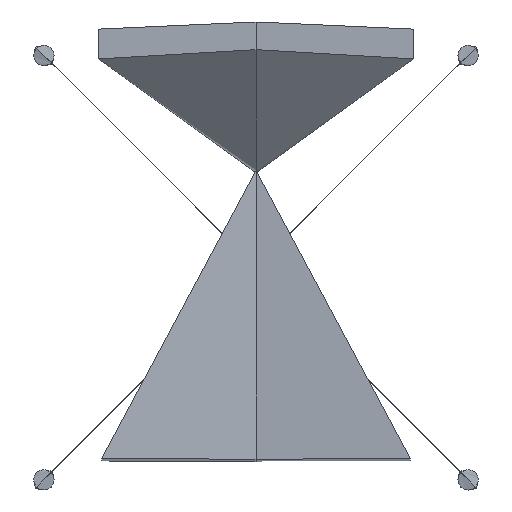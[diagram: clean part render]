
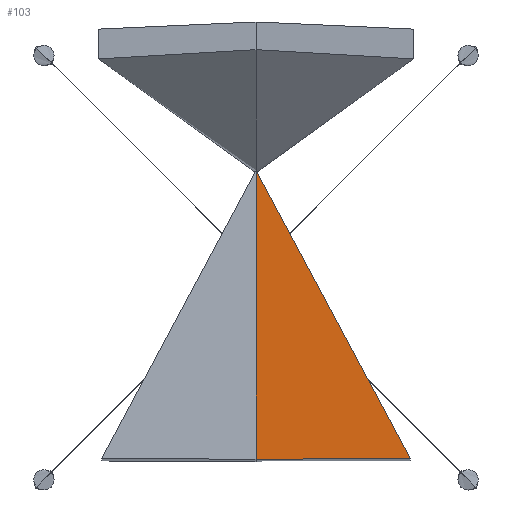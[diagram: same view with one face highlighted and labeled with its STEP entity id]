
A CAD part, top view. The second image highlights one B-rep face of the part: STEP entity #103.
In plain terms, the highlighted free-form (B-spline) face has degree [3, 3] with [4, 9] control points.
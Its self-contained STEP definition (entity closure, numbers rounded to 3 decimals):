
#103=ADVANCED_FACE('',(#173),#828,.T.);
#173=FACE_OUTER_BOUND('',#243,.T.);
#243=EDGE_LOOP('',(#336,#337,#338,#339,#340,#341));
#336=ORIENTED_EDGE('',*,*,#601,.T.);
#337=ORIENTED_EDGE('',*,*,#605,.T.);
#338=ORIENTED_EDGE('',*,*,#598,.T.);
#339=ORIENTED_EDGE('',*,*,#607,.T.);
#340=ORIENTED_EDGE('',*,*,#606,.F.);
#341=ORIENTED_EDGE('',*,*,#608,.F.);
#598=EDGE_CURVE('',#743,#742,#882,.T.);
#601=EDGE_CURVE('',#746,#744,#885,.T.);
#605=EDGE_CURVE('',#744,#743,#889,.T.);
#606=EDGE_CURVE('',#747,#748,#890,.T.);
#607=EDGE_CURVE('',#742,#748,#891,.T.);
#608=EDGE_CURVE('',#746,#747,#892,.T.);
#742=VERTEX_POINT('',#7742);
#743=VERTEX_POINT('',#7743);
#744=VERTEX_POINT('',#7744);
#746=VERTEX_POINT('',#7746);
#747=VERTEX_POINT('',#7747);
#748=VERTEX_POINT('',#7748);
#828=B_SPLINE_SURFACE_WITH_KNOTS('',3,3,((#5360,#5361,#5362,#5363,#5364,
#5365,#5366,#5367,#5368),(#5369,#5370,#5371,#5372,#5373,#5374,#5375,#5376,
#5377),(#5378,#5379,#5380,#5381,#5382,#5383,#5384,#5385,#5386),(#5387,#5388,
#5389,#5390,#5391,#5392,#5393,#5394,#5395)),.UNSPECIFIED.,.F.,.F.,.F.,(4,
4),(4,1,1,1,1,1,4),(0.,313.738),(-441.798,-368.165,
-294.532,-220.899,-147.266,-73.633,
0.),.UNSPECIFIED.);
#882=B_SPLINE_CURVE_WITH_KNOTS('',3,(#8106,#8107,#8108,#8109,#8110,#8111,
#8112,#8113,#8114),.UNSPECIFIED.,.F.,.F.,(4,1,1,1,1,1,4),(0.,73.633,
147.266,220.899,294.532,368.165,441.798),
 .UNSPECIFIED.);
#885=B_SPLINE_CURVE_WITH_KNOTS('',3,(#8131,#8132,#8133,#8134,#8135,#8136,
#8137,#8138,#8139,#8140,#8141,#8142,#8143,#8144,#8145,#8146,#8147,#8148,
#8149,#8150,#8151,#8152,#8153,#8154,#8155),.UNSPECIFIED.,.F.,.F.,(4,1,1,
1,1,1,1,1,1,1,1,1,1,1,2,1,1,1,1,1,1,4),(0.,4.583,9.166,
13.749,18.332,22.915,27.498,36.664,
54.995,73.327,91.659,100.825,109.991,
119.157,120.717,128.322,146.654,164.986,
183.318,201.649,219.981,238.313),
 .UNSPECIFIED.);
#889=B_SPLINE_CURVE_WITH_KNOTS('',3,(#8262,#8263,#8264,#8265),
 .UNSPECIFIED.,.F.,.F.,(4,4),(-146.56,0.),.UNSPECIFIED.);
#890=B_SPLINE_CURVE_WITH_KNOTS('',3,(#8266,#8267,#8268,#8269,#8270),
 .UNSPECIFIED.,.F.,.F.,(4,1,4),(298.037,368.165,441.798),
 .UNSPECIFIED.);
#891=B_SPLINE_CURVE_WITH_KNOTS('',3,(#8271,#8272,#8273,#8274,#8275,#8276,
#8277),.UNSPECIFIED.,.F.,.F.,(4,3,4),(0.,146.56,313.738),
 .UNSPECIFIED.);
#892=B_SPLINE_CURVE_WITH_KNOTS('',3,(#8278,#8279,#8280,#8281,#8282,#8283,
#8284,#8285),.UNSPECIFIED.,.F.,.F.,(4,1,1,1,1,4),(67.257,73.633,
147.266,220.899,294.532,298.037),
 .UNSPECIFIED.);
#5360=CARTESIAN_POINT('',(0.,104.914,445.761));
#5361=CARTESIAN_POINT('',(72.274,104.914,445.761));
#5362=CARTESIAN_POINT('',(139.814,105.391,455.316));
#5363=CARTESIAN_POINT('',(167.339,105.784,463.164));
#5364=CARTESIAN_POINT('',(204.305,105.447,456.434));
#5365=CARTESIAN_POINT('',(243.614,104.723,441.949));
#5366=CARTESIAN_POINT('',(201.158,103.488,417.242));
#5367=CARTESIAN_POINT('',(109.984,102.476,397.004));
#5368=CARTESIAN_POINT('',(0.,102.476,397.004));
#5369=CARTESIAN_POINT('',(0.,0.465,450.983));
#5370=CARTESIAN_POINT('',(72.274,0.465,450.983));
#5371=CARTESIAN_POINT('',(139.814,0.943,460.538));
#5372=CARTESIAN_POINT('',(167.339,1.335,468.386));
#5373=CARTESIAN_POINT('',(204.305,0.999,461.657));
#5374=CARTESIAN_POINT('',(243.614,0.275,447.172));
#5375=CARTESIAN_POINT('',(201.158,-0.961,422.465));
#5376=CARTESIAN_POINT('',(99.643,-2.234,397.004));
#5377=CARTESIAN_POINT('',(0.,-2.234,397.004));
#5378=CARTESIAN_POINT('',(0.,-103.985,456.205));
#5379=CARTESIAN_POINT('',(72.274,-103.985,456.205));
#5380=CARTESIAN_POINT('',(139.814,-103.507,465.761));
#5381=CARTESIAN_POINT('',(167.339,-103.115,473.608));
#5382=CARTESIAN_POINT('',(204.305,-103.451,466.879));
#5383=CARTESIAN_POINT('',(243.614,-104.175,452.394));
#5384=CARTESIAN_POINT('',(201.158,-105.411,427.687));
#5385=CARTESIAN_POINT('',(89.303,-106.945,397.004));
#5386=CARTESIAN_POINT('',(0.,-106.945,397.004));
#5387=CARTESIAN_POINT('',(0.,-208.433,461.428));
#5388=CARTESIAN_POINT('',(72.274,-208.433,461.428));
#5389=CARTESIAN_POINT('',(139.814,-207.955,470.983));
#5390=CARTESIAN_POINT('',(167.339,-207.563,478.831));
#5391=CARTESIAN_POINT('',(204.305,-207.899,472.102));
#5392=CARTESIAN_POINT('',(243.614,-208.623,457.617));
#5393=CARTESIAN_POINT('',(201.158,-209.859,432.91));
#5394=CARTESIAN_POINT('',(78.963,-211.654,397.004));
#5395=CARTESIAN_POINT('',(0.,-211.654,397.004));
#7742=CARTESIAN_POINT('',(0.,104.914,445.761));
#7743=CARTESIAN_POINT('',(0.,102.476,397.004));
#7744=CARTESIAN_POINT('',(0.,-44.267,397.004));
#7746=CARTESIAN_POINT('',(167.387,-210.276,424.555));
#7747=CARTESIAN_POINT('',(167.387,-207.686,476.358));
#7748=CARTESIAN_POINT('',(0.,-208.433,461.428));
#8106=CARTESIAN_POINT('',(0.,102.476,397.004));
#8107=CARTESIAN_POINT('',(109.984,102.476,397.004));
#8108=CARTESIAN_POINT('',(201.158,103.488,417.242));
#8109=CARTESIAN_POINT('',(243.614,104.723,441.949));
#8110=CARTESIAN_POINT('',(204.305,105.447,456.434));
#8111=CARTESIAN_POINT('',(167.339,105.784,463.164));
#8112=CARTESIAN_POINT('',(139.814,105.391,455.316));
#8113=CARTESIAN_POINT('',(72.274,104.914,445.761));
#8114=CARTESIAN_POINT('',(0.,104.914,445.761));
#8131=CARTESIAN_POINT('',(167.387,-210.276,424.555));
#8132=CARTESIAN_POINT('',(166.318,-209.227,424.154));
#8133=CARTESIAN_POINT('',(164.186,-207.135,423.363));
#8134=CARTESIAN_POINT('',(161.002,-204.009,422.204));
#8135=CARTESIAN_POINT('',(157.833,-200.896,421.074));
#8136=CARTESIAN_POINT('',(154.675,-197.794,419.973));
#8137=CARTESIAN_POINT('',(151.529,-194.701,418.901));
#8138=CARTESIAN_POINT('',(147.346,-190.588,417.508));
#8139=CARTESIAN_POINT('',(140.052,-183.411,415.169));
#8140=CARTESIAN_POINT('',(129.681,-173.193,412.104));
#8141=CARTESIAN_POINT('',(117.217,-160.891,408.858));
#8142=CARTESIAN_POINT('',(106.735,-150.528,406.501));
#8143=CARTESIAN_POINT('',(98.246,-142.122,404.819));
#8144=CARTESIAN_POINT('',(91.814,-135.748,403.657));
#8145=CARTESIAN_POINT('',(87.106,-131.079,402.889));
#8146=CARTESIAN_POINT('',(84.548,-128.54,402.496));
#8147=CARTESIAN_POINT('',(82.359,-126.368,402.164));
#8148=CARTESIAN_POINT('',(76.166,-120.22,401.267));
#8149=CARTESIAN_POINT('',(65.604,-109.722,399.983));
#8150=CARTESIAN_POINT('',(52.491,-96.669,398.778));
#8151=CARTESIAN_POINT('',(39.38,-83.601,397.918));
#8152=CARTESIAN_POINT('',(26.265,-70.514,397.36));
#8153=CARTESIAN_POINT('',(13.142,-57.406,397.061));
#8154=CARTESIAN_POINT('',(4.383,-48.65,397.004));
#8155=CARTESIAN_POINT('',(0.,-44.267,397.004));
#8262=CARTESIAN_POINT('',(0.,-44.267,397.004));
#8263=CARTESIAN_POINT('',(0.,4.647,397.004));
#8264=CARTESIAN_POINT('',(0.,53.562,397.004));
#8265=CARTESIAN_POINT('',(0.,102.476,397.004));
#8266=CARTESIAN_POINT('',(167.387,-207.686,476.358));
#8267=CARTESIAN_POINT('',(157.263,-207.706,475.963));
#8268=CARTESIAN_POINT('',(138.206,-207.966,470.756));
#8269=CARTESIAN_POINT('',(72.274,-208.433,461.428));
#8270=CARTESIAN_POINT('',(0.,-208.433,461.428));
#8271=CARTESIAN_POINT('',(0.,104.914,445.761));
#8272=CARTESIAN_POINT('',(0.,56.122,448.2));
#8273=CARTESIAN_POINT('',(0.,7.329,450.64));
#8274=CARTESIAN_POINT('',(0.,-41.463,453.079));
#8275=CARTESIAN_POINT('',(0.,-97.12,455.862));
#8276=CARTESIAN_POINT('',(0.,-152.777,458.645));
#8277=CARTESIAN_POINT('',(0.,-208.433,461.428));
#8278=CARTESIAN_POINT('',(167.387,-210.276,424.555));
#8279=CARTESIAN_POINT('',(170.993,-210.217,425.747));
#8280=CARTESIAN_POINT('',(214.085,-209.482,440.432));
#8281=CARTESIAN_POINT('',(243.614,-208.623,457.617));
#8282=CARTESIAN_POINT('',(204.305,-207.899,472.102));
#8283=CARTESIAN_POINT('',(179.075,-207.669,476.695));
#8284=CARTESIAN_POINT('',(167.893,-207.685,476.378));
#8285=CARTESIAN_POINT('',(167.387,-207.686,476.358));
